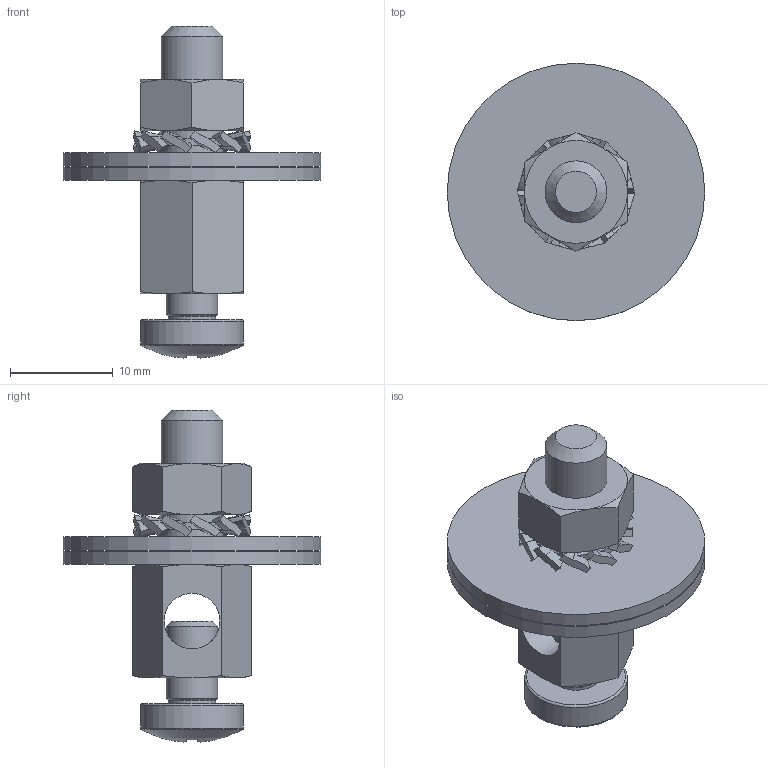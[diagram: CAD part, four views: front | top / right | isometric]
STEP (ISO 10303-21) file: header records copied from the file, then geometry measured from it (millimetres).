
FILE_DESCRIPTION(/* description */ ('Unknown'),/* implementation_level */ '2;1');
FILE_NAME(/* name */ 'ZS 10 S',/* time_stamp */ '2021-10-13T11:21:29+02:00',/* author */ ('Unknown'),/* organization */ ('Unknown'),/* preprocessor_version */ 'ST-DEVELOPER v16.7',/* originating_system */ 'Solid Edge',/* authorisation */ 'Unknown');
FILE_SCHEMA (('AUTOMOTIVE_DESIGN {1 0 10303 214 3 1 1}'));
Length unit declared in the file: millimetre
Products named in the file (1): ZS 10 S
Bounding box: 25 x 25 x 32.24 mm (x, y, z)
Volume: 2994.4 mm3; surface area: 3621.9 mm2
Topology: 3 solids, 3 shells, 221 faces, 577 edges, 369 vertices
Faces by surface type: plane 117, cylinder 73, cone 28, torus 2, sphere 1
Full cylindrical faces by diameter (mm): 4.6 x1, 5 x2, 5.4 x1, 6 x3, 6.4 x1, 6.5 x2, 10 x1, 25 x2
Entity records: 7479 total; most frequent: CARTESIAN_POINT 1371, DIRECTION 1196, ORIENTED_EDGE 1098, EDGE_CURVE 549, AXIS2_PLACEMENT_3D 498, VERTEX_POINT 362, FACE_BOUND 255, EDGE_LOOP 254
